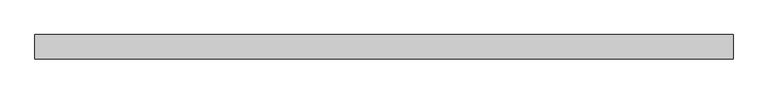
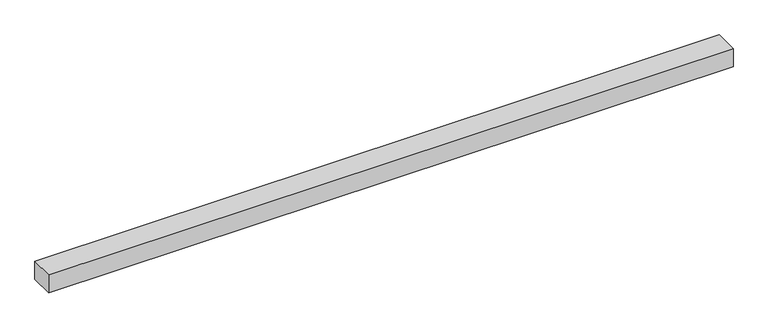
"""IFC4 building model written with IfcOpenShell, lengths in millimetres: geographic element geometry, r 低木密植 : 低木密植."""

from ifc_helpers import new_model, si_unit, origin, origin_with_axes, place, context, project, spatial, polyline, outline, extrude, source, transform, mapped, element, save


def geographic_element_428e2698(model_context):
    return source(origin(), model_context, "Body", "SweptSolid", [
        extrude(outline(polyline([(0.0, 0.0), (0.0, 500.0), (14362.4375773, 500.0), (14362.4375773, 0.0), (0.0, 0.0)])), origin_with_axes(), (0.0, 0.0, 1.0), 400.0),
    ])


if __name__ == "__main__":
    model = new_model("IFC4")
    model_context = context("Model", 3, world=origin())
    ifc_project = project(units=[si_unit("LENGTHUNIT", "METRE", prefix="MILLI")], contexts=[model_context])
    site = spatial("IfcSite", under=ifc_project)
    building = spatial("IfcBuilding", under=site)
    placement = place(None, origin())
    geographic_element_shape = geographic_element_428e2698(model_context)
    element("IfcGeographicElement", 1, ObjectType="r 低木密植 : 低木密植", at=placement, inside=building, context=model_context, shape_type="MappedRepresentation", body=[
        mapped(geographic_element_shape, transform((0.0, 0.0, 0.0), x_axis=(1.0, 0.0, 0.0), y_axis=(0.0, 1.0, 0.0), z_axis=(0.0, 0.0, 1.0))),
    ])
    save(model, "model.ifc")
